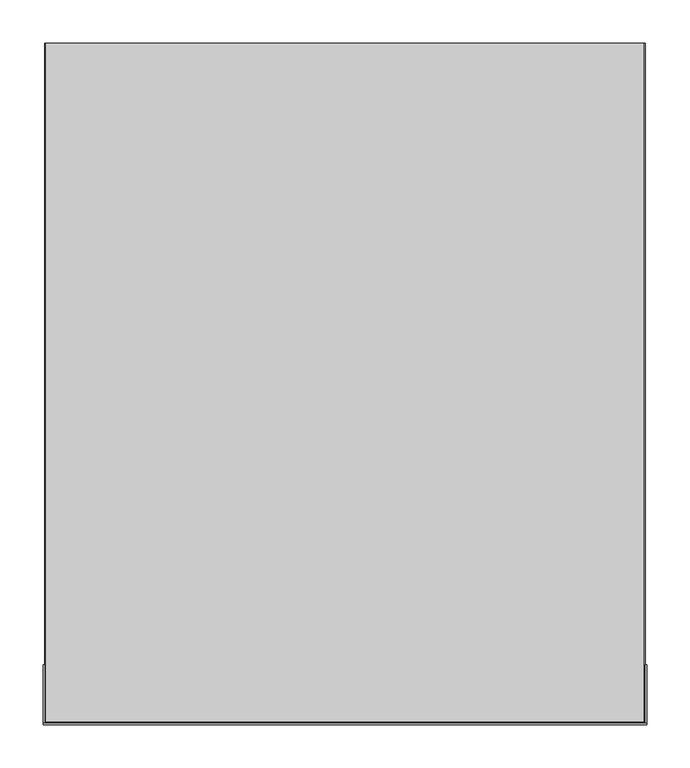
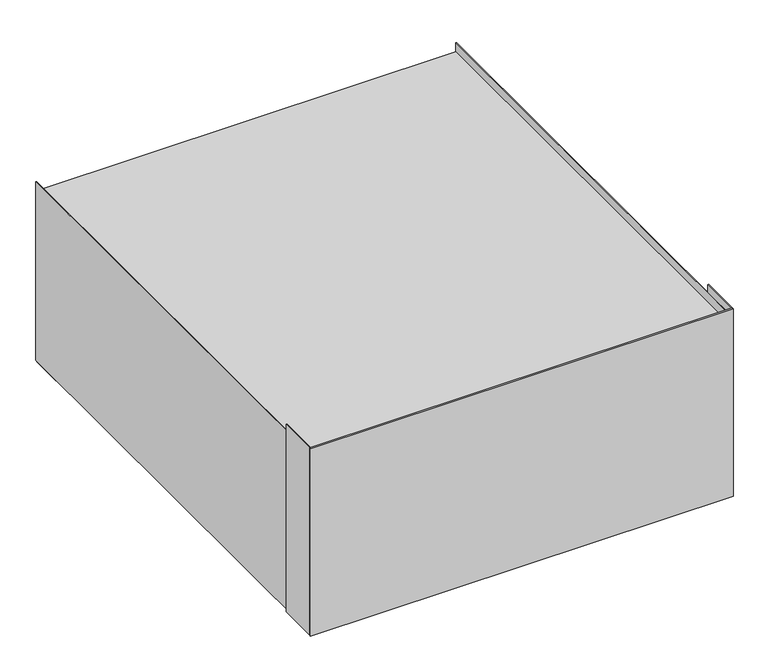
"""IFC4 building model written with IfcOpenShell, lengths in millimetres: proxy geometry, 11792110_EU_APWM037_IG : 59510037_EU_11792110_APWM037_IG."""

import ifcopenshell
import ifcopenshell.guid

model = None  # the IFC model being written
_history = None  # IfcOwnerHistory: only IFC2X3 demands one
_inside = {}  # id of a spatial element -> (the spatial element, [elements in it])
_under = {}  # id of a project, library or spatial element -> (it, [spatial elements below it])
_declared = {}  # id of a project -> (the project, [libraries it declares])
_typed = {}  # id of a type object -> (the type object, [elements of that type])
_made_of = {}  # id of a material, layer set ... -> (it, [elements and type objects made of it])


def new_model(schema):
    """Start an empty IFC model of exactly this schema.

    Asked for "IFC4X3", IfcOpenShell would pick the latest addendum, in which some entities
    have other attributes; the version numbers below select the first issue.
    IFC2X3 requires an IfcOwnerHistory on every rooted entity: one is made here for all.
    """
    global model, _history
    if schema == "IFC4X3":
        model = ifcopenshell.file(schema_version=(4, 3, 0, 0))
    else:
        model = ifcopenshell.file(schema=schema)
    _inside.clear()
    _under.clear()
    _declared.clear()
    _typed.clear()
    _made_of.clear()
    _history = None
    if model.schema == "IFC2X3":
        org = make("IfcOrganization", Name="unknown")
        user = make(
            "IfcPersonAndOrganization",
            ThePerson=make("IfcPerson", FamilyName="unknown"),
            TheOrganization=org,
        )
        app = make(
            "IfcApplication",
            ApplicationDeveloper=org,
            Version="unknown",
            ApplicationFullName="unknown",
            ApplicationIdentifier="unknown",
        )
        _history = make(
            "IfcOwnerHistory",
            OwningUser=user,
            OwningApplication=app,
            ChangeAction="ADDED",
            CreationDate=0,
        )
    return model


def make(cls, **values):
    """One entity of the class cls with the attributes given. An attribute that is None is left unset."""
    return model.create_entity(
        cls, **{name: value for name, value in values.items() if value is not None}
    )


def rooted(cls, **values):
    """An entity with a GlobalId (a new one), such as an element, a storey or a relation."""
    return make(cls, GlobalId=ifcopenshell.guid.new(), OwnerHistory=_history, **values)


def si_unit(unit_type, name, prefix=None):
    """IfcSIUnit, for example si_unit("LENGTHUNIT", "METRE", prefix="MILLI")."""
    return make("IfcSIUnit", UnitType=unit_type, Prefix=prefix, Name=name)


def assignment(units):
    """IfcUnitAssignment: the units of a project."""
    return None if units is None else make("IfcUnitAssignment", Units=units)


def point(xyz):
    """IfcCartesianPoint."""
    return None if xyz is None else make("IfcCartesianPoint", Coordinates=xyz)


def direction(xyz):
    """IfcDirection."""
    return None if xyz is None else make("IfcDirection", DirectionRatios=xyz)


def frame(location, z_axis=None, x_axis=None):
    """IfcAxis2Placement3D, a coordinate frame: its origin and axes. An axis left out is left unset."""
    return make(
        "IfcAxis2Placement3D",
        Location=point(location),
        Axis=direction(z_axis),
        RefDirection=direction(x_axis),
    )


def frame_2d(location, x_axis=None):
    """IfcAxis2Placement2D, a coordinate frame in the plane: its origin and x axis."""
    return make(
        "IfcAxis2Placement2D", Location=point(location), RefDirection=direction(x_axis)
    )


def origin():
    """The frame at (0, 0, 0) with its axes left unset."""
    return frame((0.0, 0.0, 0.0))


def origin_with_axes():
    """The frame at (0, 0, 0) with the z axis (0, 0, 1) and the x axis (1, 0, 0) written out."""
    return frame((0.0, 0.0, 0.0), z_axis=(0.0, 0.0, 1.0), x_axis=(1.0, 0.0, 0.0))


def place(relative_to, where):
    """IfcLocalPlacement: puts the frame where relative to a parent placement (None: the world)."""
    return make(
        "IfcLocalPlacement", PlacementRelTo=relative_to, RelativePlacement=where
    )


def context(
    kind, dimensions, precision=None, world=None, true_north=None, identifier=None
):
    """IfcGeometricRepresentationContext, for example the 3D "Model" context."""
    return make(
        "IfcGeometricRepresentationContext",
        ContextIdentifier=identifier,
        ContextType=kind,
        CoordinateSpaceDimension=dimensions,
        Precision=precision,
        WorldCoordinateSystem=world,
        TrueNorth=true_north,
    )


def project(units=None, contexts=None):
    """IfcProject with its units and contexts."""
    return rooted(
        "IfcProject",
        Name="project",
        RepresentationContexts=contexts,
        UnitsInContext=assignment(units),
    )


def spatial(cls, under=None, at=None, **own):
    """A site, building, storey or space (cls), placed at a placement, below another one or the project."""
    s = rooted(cls, ObjectPlacement=at, **own)
    if under is not None:
        _under.setdefault(under.id(), (under, []))[1].append(s)
    return s


def polyline(points):
    """IfcPolyline through the points."""
    return make("IfcPolyline", Points=[point(p) for p in points])


def circle_curve(where, radius):
    """IfcCircle in the frame where."""
    return make("IfcCircle", Position=where, Radius=radius)


def trimmed(basis, trim1, trim2, sense, master):
    """IfcTrimmedCurve: the piece of a basis curve between two trims."""
    return make(
        "IfcTrimmedCurve",
        BasisCurve=basis,
        Trim1=trim1,
        Trim2=trim2,
        SenseAgreement=sense,
        MasterRepresentation=master,
    )


def segment(curve, same_sense, transition):
    """IfcCompositeCurveSegment."""
    return make(
        "IfcCompositeCurveSegment",
        Transition=transition,
        SameSense=same_sense,
        ParentCurve=curve,
    )


def composite_curve(segments, self_intersect=None):
    """IfcCompositeCurve: segments joined end to end."""
    return make("IfcCompositeCurve", Segments=segments, SelfIntersect=self_intersect)


def outline(outer, holes=None, kind="AREA"):
    """IfcArbitraryClosedProfileDef: a profile drawn as a closed curve; with holes, ...WithVoids."""
    if holes is None:
        return make("IfcArbitraryClosedProfileDef", ProfileType=kind, OuterCurve=outer)
    return make(
        "IfcArbitraryProfileDefWithVoids",
        ProfileType=kind,
        OuterCurve=outer,
        InnerCurves=holes,
    )


def extrude(swept, where, along, depth):
    """IfcExtrudedAreaSolid: the profile swept, set in the frame where, extruded along a direction by depth."""
    return make(
        "IfcExtrudedAreaSolid",
        SweptArea=swept,
        Position=where,
        ExtrudedDirection=direction(along),
        Depth=depth,
    )


def faces_of(points, faces, orient=None, outer=None):
    """IfcFace entities. A face is a list of loops; a loop is a list of indices into points, from 0.

    orient and outer hold one flag for each loop. By default every Orientation is true, the
    first loop of a face is its IfcFaceOuterBound and the others are IfcFaceBound.
    """
    made = []
    for i, loops in enumerate(faces):
        bounds = []
        for j, loop in enumerate(loops):
            is_outer = j == 0 if outer is None else outer[i][j]
            bounds.append(
                make(
                    "IfcFaceOuterBound" if is_outer else "IfcFaceBound",
                    Bound=make("IfcPolyLoop", Polygon=[points[k] for k in loop]),
                    Orientation=True if orient is None else orient[i][j],
                )
            )
        made.append(make("IfcFace", Bounds=bounds))
    return made


def faceted_brep(points, faces, orient=None, outer=None, voids=None):
    """IfcFacetedBrep: a solid bounded by flat faces; with voids (closed shells), ...WithVoids."""
    shared = [point(p) for p in points]
    hull = make("IfcClosedShell", CfsFaces=faces_of(shared, faces, orient, outer))
    if voids is None:
        return make("IfcFacetedBrep", Outer=hull)
    return make(
        "IfcFacetedBrepWithVoids",
        Outer=hull,
        Voids=[
            make(cls, CfsFaces=faces_of(shared, fs, o, b)) for cls, fs, o, b in voids
        ],
    )


def shape(context_of_items, identifier, shape_type, items):
    """IfcShapeRepresentation: the items that make up one representation, for example the "Body"."""
    return make(
        "IfcShapeRepresentation",
        ContextOfItems=context_of_items,
        RepresentationIdentifier=identifier,
        RepresentationType=shape_type,
        Items=items,
    )


def source(mapping_origin, context_of_items, identifier, shape_type, items):
    """IfcRepresentationMap: a shape defined once, which mapped items show again and again."""
    return make(
        "IfcRepresentationMap",
        MappingOrigin=mapping_origin,
        MappedRepresentation=shape(context_of_items, identifier, shape_type, items),
    )


def transform(
    local_origin,
    x_axis=None,
    y_axis=None,
    z_axis=None,
    scale=None,
    scale2=None,
    scale3=None,
    uniform=True,
):
    """IfcCartesianTransformationOperator3D, or its non-uniform kind. x_axis, y_axis, z_axis: its Axis1, 2, 3."""
    if uniform:
        return make(
            "IfcCartesianTransformationOperator3D",
            Axis1=direction(x_axis),
            Axis2=direction(y_axis),
            LocalOrigin=point(local_origin),
            Scale=scale,
            Axis3=direction(z_axis),
        )
    return make(
        "IfcCartesianTransformationOperator3DnonUniform",
        Axis1=direction(x_axis),
        Axis2=direction(y_axis),
        LocalOrigin=point(local_origin),
        Scale=scale,
        Axis3=direction(z_axis),
        Scale2=scale2,
        Scale3=scale3,
    )


def mapped(mapping_source, mapping_target):
    """IfcMappedItem: shows the shape of a source again, moved by a transform."""
    return make(
        "IfcMappedItem", MappingSource=mapping_source, MappingTarget=mapping_target
    )


def made_of(thing, what):
    """Note that an element or type object is made of a material, layer set ...; save() writes the relation."""
    if what is not None:
        _made_of.setdefault(what.id(), (what, []))[1].append(thing)
    return thing


def element(
    cls,
    number,
    at=None,
    inside=None,
    cuts=None,
    type_object=None,
    material=None,
    context=None,
    identifier="Body",
    shape_type=None,
    held_by="IfcProductDefinitionShape",
    body=None,
    shapes=None,
    **own,
):
    """One element of the class cls, such as IfcWall. Its Tag is "e" and its number.

    at: its placement. inside: the storey or other place that contains it. cuts: it is an
    opening in that element (IfcRelVoidsElement). A single representation is given by context,
    identifier, shape_type and body (its items); several are given by shapes. held_by: the class
    of the entity that holds the representations. save() writes the other relations.
    """
    e = rooted(cls, Tag="e%d" % number, ObjectPlacement=at, **own)
    if body is not None:
        shapes = [shape(context, identifier, shape_type, body)]
    if shapes is not None:
        e.Representation = make(held_by, Representations=shapes)
    if inside is not None:
        _inside.setdefault(inside.id(), (inside, []))[1].append(e)
    if cuts is not None:
        rooted(
            "IfcRelVoidsElement", RelatingBuildingElement=cuts, RelatedOpeningElement=e
        )
    if type_object is not None:
        _typed.setdefault(type_object.id(), (type_object, []))[1].append(e)
    return made_of(e, material)


def aggregate(whole, parts):
    """IfcRelAggregates: a whole, such as a stair, and the parts it consists of."""
    return rooted("IfcRelAggregates", RelatingObject=whole, RelatedObjects=parts)


def save(model, path):
    """Write the relations noted so far, then the file.

    IfcRelAggregates (storeys below a building ...), IfcRelContainedInSpatialStructure (elements
    in a storey), IfcRelDefinesByType, IfcRelAssociatesMaterial and IfcRelDeclares: one each for
    every whole, place, type object, material and project.
    """
    for whole, parts in _under.values():
        aggregate(whole, parts)
    for where, things in _inside.values():
        rooted(
            "IfcRelContainedInSpatialStructure",
            RelatedElements=things,
            RelatingStructure=where,
        )
    for kind, things in _typed.values():
        rooted("IfcRelDefinesByType", RelatedObjects=things, RelatingType=kind)
    for what, things in _made_of.values():
        rooted("IfcRelAssociatesMaterial", RelatedObjects=things, RelatingMaterial=what)
    for by, libraries in _declared.values():
        rooted("IfcRelDeclares", RelatingContext=by, RelatedDefinitions=libraries)
    model.write(path)


def specialty_equipment_86b45287(model_context):
    return source(origin(), model_context, "Body", "SolidModel", [
        extrude(outline(polyline([(-345.65, -54.9545854), (-345.65, -2.0), (-293.150057, -2.0), (-293.150057, -54.9545854), (-345.65, -54.9545854)]), holes=[composite_curve([segment(trimmed(circle_curve(frame_2d((-316.8980495, -29.501979)), 7.0), [point((-323.8980495, -29.501979))], [point((-309.8980495, -29.501979))], True, "CARTESIAN"), True, "CONTINUOUS"), segment(trimmed(circle_curve(frame_2d((-316.8980495, -29.501979)), 7.0), [point((-309.8980495, -29.501979))], [point((-323.8980495, -29.501979))], True, "CARTESIAN"), True, "CONTINUOUS")], self_intersect=False)]), origin_with_axes(), (0.0, 0.0, 1.0), 3.0000568),
        extrude(outline(polyline([(345.65, -733.2454146), (345.65, -786.2), (291.65, -786.2), (291.65, -733.2454146), (345.65, -733.2454146)]), holes=[composite_curve([segment(trimmed(circle_curve(frame_2d((317.0263561, -759.5584791)), 7.0), [point((324.0263561, -759.5584791))], [point((310.0263561, -759.5584791))], True, "CARTESIAN"), True, "CONTINUOUS"), segment(trimmed(circle_curve(frame_2d((317.0263561, -759.5584791)), 7.0), [point((310.0263561, -759.5584791))], [point((324.0263561, -759.5584791))], True, "CARTESIAN"), True, "CONTINUOUS")], self_intersect=False)]), origin_with_axes(), (0.0, 0.0, 1.0), 3.0000568),
        extrude(outline(polyline([(-320.4297166, -34.501979), (-320.4297166, -24.456348), (-316.5963863, -24.456348), (-314.7189618, -24.7518799), (-313.6104107, -25.6605484), (-313.2094194, -26.9456828), (-313.5466445, -28.1192264), (-314.5656776, -29.0082745), (-313.3283679, -29.9451473), (-312.8954934, -31.5074196), (-313.1910253, -32.8575465), (-313.9231104, -33.8189448), (-315.01572, -34.3290745), (-316.6258168, -34.501979), (-320.4297166, -34.501979)]), holes=[polyline([(-319.1740128, -28.5373856), (-316.8808817, -28.5373856), (-315.5417912, -28.4294735), (-314.7361296, -27.9647159), (-314.4651232, -27.1467916), (-314.7177355, -26.3276411), (-315.4412368, -25.8432631), (-317.0550125, -25.7120519), (-319.1740128, -25.7120519), (-319.1740128, -28.5373856)]), polyline([(-319.1740128, -33.2462751), (-316.5988388, -33.2462751), (-315.6668711, -33.1972242), (-314.8783773, -32.9237652), (-314.1511973, -31.5196823), (-314.3915468, -30.5435687), (-315.1702304, -29.9610889), (-316.7214661, -29.7930895), (-319.1740128, -29.7930895), (-319.1740128, -33.2462751)])]), frame((0.0, 0.0, -1.0), z_axis=(0.0, 0.0, 1.0), x_axis=(1.0, 0.0, 0.0)), (0.0, 0.0, 1.0), 1.0),
        extrude(outline(polyline([(-320.30141, -764.5584791), (-320.30141, -754.5128481), (-316.4680796, -754.5128481), (-314.5906552, -754.80838), (-313.4821041, -755.7170485), (-313.0811127, -757.0021829), (-313.4183379, -758.1757265), (-314.437371, -759.0647747), (-313.2000613, -760.0016475), (-312.7671868, -761.5639197), (-313.0627186, -762.9140466), (-313.7948038, -763.8754449), (-314.8874133, -764.3855746), (-316.4975102, -764.5584791), (-320.30141, -764.5584791)]), holes=[polyline([(-319.0457062, -758.5938857), (-316.7525751, -758.5938857), (-315.4134846, -758.4859737), (-314.607823, -758.0212161), (-314.3368166, -757.2032918), (-314.5894289, -756.3841412), (-315.3129302, -755.8997632), (-316.9267059, -755.768552), (-319.0457062, -755.768552), (-319.0457062, -758.5938857)]), polyline([(-319.0457062, -763.3027753), (-316.4705322, -763.3027753), (-315.5385645, -763.2537243), (-314.7500707, -762.9802654), (-314.0228906, -761.5761824), (-314.2632402, -760.6000689), (-315.0419238, -760.017589), (-316.5931595, -759.8495896), (-319.0457062, -759.8495896), (-319.0457062, -763.3027753)])]), frame((0.0, 0.0, -1.0), z_axis=(0.0, 0.0, 1.0), x_axis=(1.0, 0.0, 0.0)), (0.0, 0.0, 1.0), 1.0),
        extrude(outline(polyline([(313.494689, -764.7227073), (313.494689, -754.6770763), (317.3280193, -754.6770763), (319.2054438, -754.9726082), (320.3139949, -755.8812767), (320.7149862, -757.1664111), (320.3777611, -758.3399547), (319.358728, -759.2290028), (320.5960377, -760.1658757), (321.0289122, -761.7281479), (320.7333803, -763.0782748), (320.0012952, -764.0396731), (318.9086857, -764.5498028), (317.2985888, -764.7227073), (313.494689, -764.7227073)]), holes=[polyline([(314.7503928, -758.7581139), (317.0435239, -758.7581139), (318.3826144, -758.6502018), (319.188276, -758.1854443), (319.4592824, -757.36752), (319.2066701, -756.5483694), (318.4831688, -756.0639914), (316.8693931, -755.9327802), (314.7503928, -755.9327802), (314.7503928, -758.7581139)]), polyline([(314.7503928, -763.4670034), (317.3255668, -763.4670034), (318.2575345, -763.4179525), (319.0460283, -763.1444936), (319.7732083, -761.7404106), (319.5328588, -760.764297), (318.7541752, -760.1818172), (317.2029395, -760.0138178), (314.7503928, -760.0138178), (314.7503928, -763.4670034)])]), frame((0.0, 0.0, -1.0), z_axis=(0.0, 0.0, 1.0), x_axis=(1.0, 0.0, 0.0)), (0.0, 0.0, 1.0), 1.0),
        extrude(outline(polyline([(-345.65, -733.2454146), (-291.65, -733.2454146), (-291.65, -786.2), (-345.65, -786.2), (-345.65, -733.2454146)]), holes=[composite_curve([segment(trimmed(circle_curve(frame_2d((-317.0263561, -759.5584791)), 7.0), [point((-324.0263561, -759.5584791))], [point((-310.0263561, -759.5584791))], True, "CARTESIAN"), True, "CONTINUOUS"), segment(trimmed(circle_curve(frame_2d((-317.0263561, -759.5584791)), 7.0), [point((-310.0263561, -759.5584791))], [point((-324.0263561, -759.5584791))], True, "CARTESIAN"), True, "CONTINUOUS")], self_intersect=False)]), origin_with_axes(), (0.0, 0.0, 1.0), 3.0000568),
        faceted_brep([(-347.9787048, -660.2000122, 255.0000529), (-347.9787048, -788.2, 255.0000529), (-217.5212799, -788.2, 255.0000529), (-217.5212799, -786.2, 255.0000529), (-345.9787048, -786.2, 255.0000529), (-345.9787048, -660.2000122, 255.0000529), (-345.9787048, -786.2, 0.0), (-291.5212646, -786.2, 0.0), (-291.5212646, -788.2, 0.0), (-347.9787048, -788.2, 0.0), (-347.9787048, -734.012736, 0.0), (-345.9787048, -734.012736, 0.0), (-347.9787048, -734.012736, 6.0002128), (-291.5212646, -788.2, 5.360683), (-291.5212646, -786.2, 5.360683), (-345.9787048, -734.012736, 6.0002128)], [[[0, 1, 2, 3, 4, 5]], [[6, 7, 8, 9, 10, 11]], [[1, 0, 12, 10, 9]], [[2, 1, 9, 8, 13]], [[4, 3, 14, 7, 6]], [[5, 4, 6, 11, 15]], [[14, 13, 8, 7]], [[13, 14, 3, 2]], [[15, 12, 0, 5]], [[12, 15, 11, 10]]]),
        faceted_brep([(345.9787048, -660.2000122, 255.0000529), (345.9787048, -786.2, 255.0000529), (217.5212799, -786.2, 255.0000529), (217.5212799, -788.2, 255.0000529), (347.9787048, -788.2, 255.0000529), (347.9787048, -660.2000122, 255.0000529), (347.9787048, -788.2, 0.0), (291.4787048, -788.2, 0.0), (291.4787048, -786.2, 0.0), (345.9787048, -786.2, 0.0), (345.9787048, -734.012736, 0.0), (347.9787048, -734.012736, 0.0), (347.9787048, -734.012736, 6.0002128), (291.4787048, -788.2, 4.5000568), (291.4787048, -786.2, 4.5000568), (345.9787048, -734.012736, 6.0002128)], [[[0, 1, 2, 3, 4, 5]], [[6, 7, 8, 9, 10, 11]], [[5, 4, 6, 11, 12]], [[4, 3, 13, 7, 6]], [[2, 1, 9, 8, 14]], [[1, 0, 15, 10, 9]], [[13, 14, 8, 7]], [[14, 13, 3, 2]], [[12, 15, 0, 5]], [[15, 12, 11, 10]]]),
        extrude(outline(polyline([(-347.9787048, -788.2), (-347.9787048, 0.0), (347.9787048, 0.0), (347.9787048, -788.2), (-347.9787048, -788.2)])), frame((0.0, 0.0, 255.0000529), z_axis=(0.0, 0.0, 1.0), x_axis=(1.0, 0.0, 0.0)), (0.0, 0.0, 1.0), 44.9999986),
        extrude(outline(polyline([(350.65, -789.7), (350.65, -791.7), (-350.65, -791.7), (-350.65, -789.7), (350.65, -789.7)])), origin_with_axes(), (0.0, 0.0, 1.0), 329.0),
        faceted_brep([(347.9787048, -127.9999878, 255.0000529), (347.9787048, 0.0, 255.0000529), (217.5212799, 0.0, 255.0000529), (217.5212799, -2.0, 255.0000529), (345.9787048, -2.0, 255.0000529), (345.9787048, -127.9999878, 255.0000529), (345.9787048, -2.0, 0.0), (291.4787048, -2.0, 0.0), (291.4787048, 0.0, 0.0), (347.9787048, 0.0, 0.0), (347.9787048, -54.9545854, 0.0), (345.9787048, -54.9545854, 0.0), (347.9787048, -127.9999878, 251.1747163), (347.9787048, -54.9545854, 3.7638167), (291.4787048, 0.0, 4.5000568), (291.4787048, -2.0, 4.5000568), (345.9787048, -54.9545854, 3.7638167), (345.9787048, -127.9999878, 251.1747163)], [[[0, 1, 2, 3, 4, 5]], [[6, 7, 8, 9, 10, 11]], [[1, 0, 12, 13, 10, 9]], [[1, 9, 8, 14, 2]], [[6, 4, 3, 15, 7]], [[5, 4, 6, 11, 16, 17]], [[0, 5, 17, 12]], [[15, 14, 8, 7]], [[14, 15, 3, 2]], [[13, 16, 11, 10]], [[16, 13, 12, 17]]]),
        faceted_brep([(-347.9787048, -127.9999878, 255.0000529), (-345.9787048, -127.9999878, 255.0000529), (-345.9787048, -2.0, 255.0000529), (-217.5212799, -2.0, 255.0000529), (-217.5212799, 0.0, 255.0000529), (-347.9787048, 0.0, 255.0000529), (-347.9787048, 0.0, 0.0), (-291.5212646, 0.0, 0.0), (-291.5212646, -2.0, 0.0), (-345.9787048, -2.0, 0.0), (-345.9787048, -54.9545854, 0.0), (-347.9787048, -54.9545854, 0.0), (-347.9787048, -54.9545854, 3.7638167), (-347.9787048, -127.9999878, 251.1747163), (-291.5212646, 0.0, 5.360683), (-291.5212646, -2.0, 5.360683), (-345.9787048, -127.9999878, 251.1747163), (-345.9787048, -54.9545854, 3.7638167)], [[[0, 1, 2, 3, 4, 5]], [[6, 7, 8, 9, 10, 11]], [[0, 5, 6, 11, 12, 13]], [[6, 5, 4, 14, 7]], [[2, 9, 8, 15, 3]], [[2, 1, 16, 17, 10, 9]], [[1, 0, 13, 16]], [[14, 15, 8, 7]], [[15, 14, 4, 3]], [[17, 12, 11, 10]], [[12, 17, 16, 13]]]),
        extrude(outline(polyline([(348.9787048, -789.7), (348.9787048, -721.7872741), (350.65, -721.7872741), (350.65, -789.7), (348.9787048, -789.7)])), origin_with_axes(), (0.0, 0.0, 1.0), 329.0),
        extrude(outline(polyline([(-348.9787048, -721.7872741), (-348.9787048, -789.7), (-350.65, -789.7), (-350.65, -721.7872741), (-348.9787048, -721.7872741)])), origin_with_axes(), (0.0, 0.0, 1.0), 329.0),
        extrude(outline(polyline([(348.9787048, -789.7), (347.9787048, -789.7), (347.9787048, 0.0), (348.9787048, 0.0), (348.9787048, -789.7)])), frame((0.0, 0.0, 3.0000568), z_axis=(0.0, 0.0, 1.0), x_axis=(1.0, 0.0, 0.0)), (0.0, 0.0, 1.0), 312.9999432),
        extrude(outline(polyline([(0.0, -1.0), (0.0, 0.0), (789.7, 0.0), (789.7, -1.0), (0.0, -1.0)])), frame((-348.9787048, -789.7, 3.0000568), z_axis=(-2.2841728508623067e-12, 0.0, 1.0), x_axis=(0.0, 1.0, 0.0)), (0.0, 0.0, 1.0), 312.9999432),
        extrude(outline(polyline([(313.3663823, -34.501979), (313.3663823, -24.456348), (317.1997127, -24.456348), (319.0771372, -24.7518799), (320.1856883, -25.6605484), (320.5866796, -26.9456828), (320.2494545, -28.1192264), (319.2304213, -29.0082745), (320.4677311, -29.9451473), (320.9006056, -31.5074196), (320.6050737, -32.8575465), (319.8729886, -33.8189448), (318.780379, -34.3290745), (317.1702822, -34.501979), (313.3663823, -34.501979)]), holes=[polyline([(314.6220862, -28.5373856), (316.9152173, -28.5373856), (318.2543078, -28.4294735), (319.0599694, -27.9647159), (319.3309758, -27.1467916), (319.0783635, -26.3276411), (318.3548622, -25.8432631), (316.7410865, -25.7120519), (314.6220862, -25.7120519), (314.6220862, -28.5373856)]), polyline([(314.6220862, -33.2462751), (317.1972602, -33.2462751), (318.1292279, -33.1972242), (318.9177216, -32.9237652), (319.6449017, -31.5196823), (319.4045522, -30.5435687), (318.6258686, -29.9610889), (317.0746329, -29.7930895), (314.6220862, -29.7930895), (314.6220862, -33.2462751)])]), frame((0.0, 0.0, -1.0), z_axis=(0.0, 0.0, 1.0), x_axis=(1.0, 0.0, 0.0)), (0.0, 0.0, 1.0), 1.0),
        extrude(outline(polyline([(345.65, -54.9545854), (293.150057, -54.9545854), (293.150057, -2.0), (345.65, -2.0), (345.65, -54.9545854)]), holes=[composite_curve([segment(trimmed(circle_curve(frame_2d((316.8980495, -29.501979)), 7.0), [point((323.8980495, -29.501979))], [point((309.8980495, -29.501979))], True, "CARTESIAN"), True, "CONTINUOUS"), segment(trimmed(circle_curve(frame_2d((316.8980495, -29.501979)), 7.0), [point((309.8980495, -29.501979))], [point((323.8980495, -29.501979))], True, "CARTESIAN"), True, "CONTINUOUS")], self_intersect=False)]), origin_with_axes(), (0.0, 0.0, 1.0), 3.0000568),
    ])


if __name__ == "__main__":
    model = new_model("IFC4")
    model_context = context("Model", 3, world=origin())
    ifc_project = project(units=[si_unit("LENGTHUNIT", "METRE", prefix="MILLI")], contexts=[model_context])
    site = spatial("IfcSite", under=ifc_project)
    building = spatial("IfcBuilding", under=site)
    placement = place(None, origin())
    specialty_equipment_shape = specialty_equipment_86b45287(model_context)
    element("IfcBuildingElementProxy", 1, Name="11792110_EU_APWM037_IG : 59510037_EU_11792110_APWM037_IG", ObjectType="11792110_EU_APWM037_IG : 59510037_EU_11792110_APWM037_IG", at=placement, inside=building, context=model_context, shape_type="MappedRepresentation", body=[
        mapped(specialty_equipment_shape, transform((0.0, 0.0, 0.0), x_axis=(1.0, 0.0, 0.0), y_axis=(0.0, 1.0, 0.0), z_axis=(0.0, 0.0, 1.0))),
    ])
    save(model, "model.ifc")
